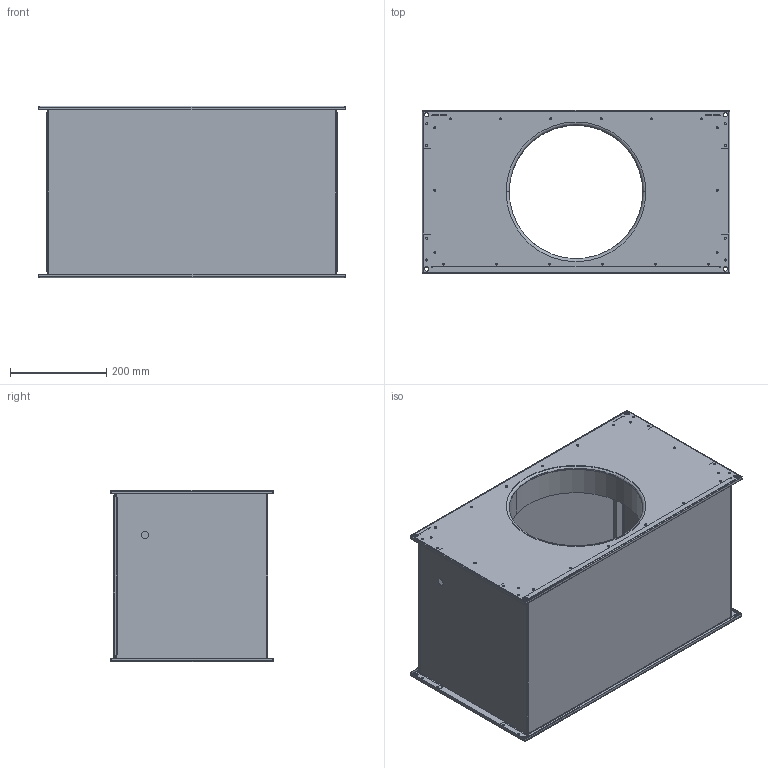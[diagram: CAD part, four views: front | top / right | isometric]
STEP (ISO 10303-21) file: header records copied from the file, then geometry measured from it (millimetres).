
FILE_DESCRIPTION (( 'STEP AP203' ), '1' );
FILE_NAME ('127738-00_ELKI6030E210.STEP', '2013-09-25T06:26:33', ( '' ), ( '' ), 'SwSTEP 2.0', 'SolidWorks 2012', '' );
FILE_SCHEMA (( 'CONFIG_CONTROL_DESIGN' ));
Length unit declared in the file: millimetre
Products named in the file (1): 127738-00_ELKI6030E210
Bounding box: 639 x 338 x 357 mm (x, y, z)
Surface area: 2290043.6 mm2 (no closed solid volume)
Topology: 0 solids, 76 shells, 490 faces, 1598 edges, 1145 vertices
Faces by surface type: cylinder 325, plane 153, bspline 8, torus 4
Entity records: 18913 total; most frequent: CARTESIAN_POINT 4224, DIRECTION 3308, ORIENTED_EDGE 2469, EDGE_CURVE 1598, AXIS2_PLACEMENT_3D 1279, VERTEX_POINT 1145, CIRCLE 796, VECTOR 750
